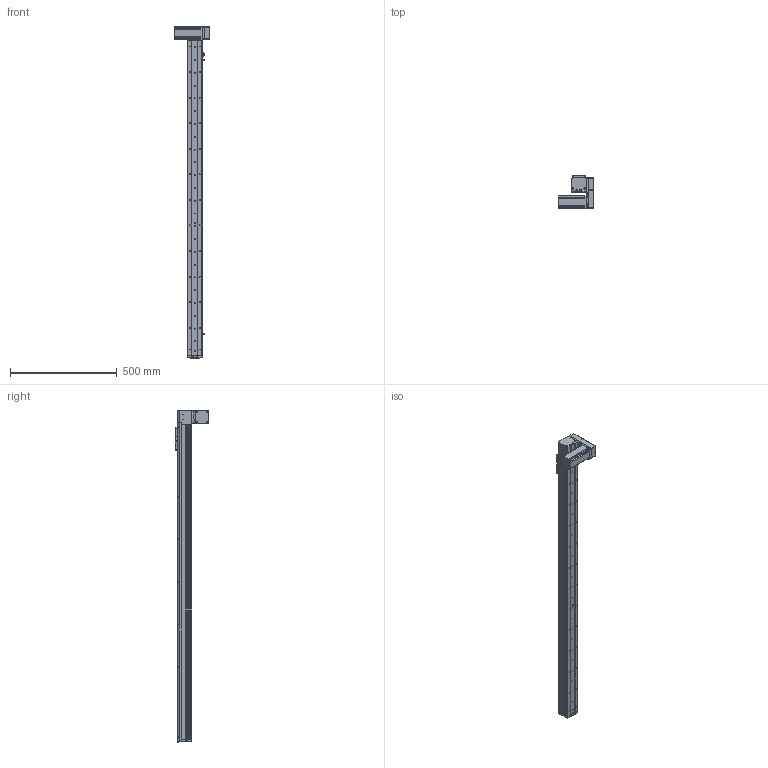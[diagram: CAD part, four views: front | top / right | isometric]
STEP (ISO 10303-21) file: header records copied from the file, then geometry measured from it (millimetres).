
FILE_DESCRIPTION (( 'STEP AP214' ), '1' );
FILE_NAME ('KSD68BS-S1300-MLD-CR.STEP', '2019-08-27T05:55:59', ( '微软用户' ), ( '微软中国' ), 'SwSTEP 2.0', 'SolidWorks 2014', '' );
FILE_SCHEMA (( 'AUTOMOTIVE_DESIGN' ));
Length unit declared in the file: millimetre
Products named in the file (14): 68遵裔啣揤啣1; 68宽单导轨全封闭丝杆传动安装板1防护罩; KSD68BS 1300行程侧板全封闭; 68宽单导轨全封闭同步带端板; KSD68BS 1300行程盖板全封闭; 68单导轨全封闭同步带电机座左; 68单导轨全封闭同步带安装板; 悵誘欶奻狟殏; 68宽马达安装板连板上折同步带; 感应片68宽全封闭; U倰嫖萇EEㄜSX672; 台达ECMA－C20604AS伺服电机（400W); KSD68BS 1300行程底板全封闭; KSD68BS-S1300-MLD-CR
Assembly tree (17 placements, depth 2):
  KSD68BS-S1300-MLD-CR
    KSD68BS 1300行程底板全封闭
    台达ECMA－C20604AS伺服电机（400W)
    U倰嫖萇EEㄜSX672  x3
    感应片68宽全封闭
    68宽马达安装板连板上折同步带
    悵誘欶奻狟殏
    68单导轨全封闭同步带安装板
    68单导轨全封闭同步带电机座左
    68宽单导轨全封闭同步带端板
    KSD68BS 1300行程侧板全封闭  x2
    68宽单导轨全封闭丝杆传动安装板1防护罩
    68遵裔啣揤啣1  x2
    KSD68BS 1300行程盖板全封闭
Bounding box: 167.2 x 155.5 x 1558.1 mm (x, y, z)
Volume: 2940239.8 mm3; surface area: 1162969.8 mm2
Topology: 18 solids, 18 shells, 1571 faces, 4501 edges, 2872 vertices
Faces by surface type: cylinder 762, plane 629, cone 180
Entity records: 50695 total; most frequent: CARTESIAN_POINT 8807, DIRECTION 7556, ORIENTED_EDGE 7230, EDGE_CURVE 3615, AXIS2_PLACEMENT_3D 2745, VERTEX_POINT 2370, VECTOR 2066, LINE 2066
